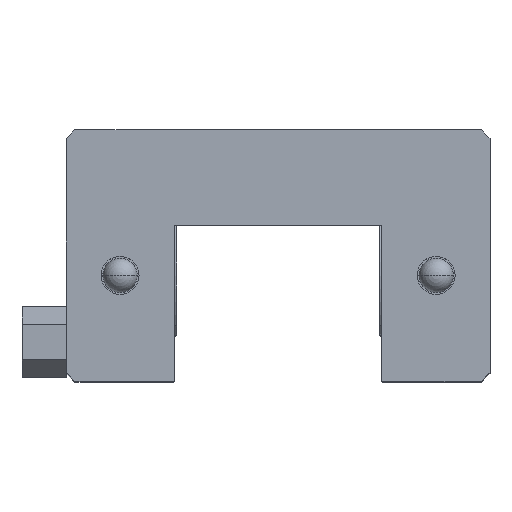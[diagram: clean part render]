
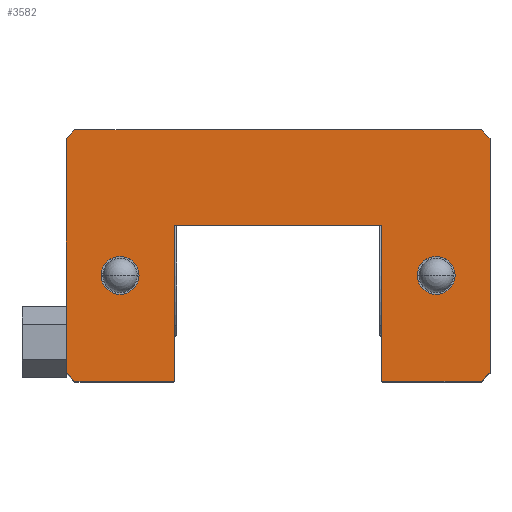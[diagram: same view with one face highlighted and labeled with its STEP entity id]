
A CAD part, top view. The second image highlights one B-rep face of the part: STEP entity #3582.
In plain terms, the highlighted planar face has unit normal (0, 0, 1).
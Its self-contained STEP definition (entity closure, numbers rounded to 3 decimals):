
#1870 = VERTEX_POINT( '', #4796 );
#1914 = EDGE_CURVE( '', #3822, #3254, #4844, .T. );
#1996 = EDGE_CURVE( '', #2322, #3720, #4934, .T. );
#2012 = EDGE_CURVE( '', #2252, #4044, #4950, .T. );
#2076 = EDGE_CURVE( '', #2658, #2146, #5026, .T. );
#2146 = VERTEX_POINT( '', #5107 );
#2214 = VERTEX_POINT( '', #5188 );
#2252 = VERTEX_POINT( '', #5230 );
#2322 = VERTEX_POINT( '', #5310 );
#2334 = EDGE_CURVE( '', #3576, #3602, #5322, .T. );
#2404 = VERTEX_POINT( '', #5397 );
#2416 = EDGE_CURVE( '', #3602, #2322, #5409, .T. );
#2570 = EDGE_CURVE( '', #2146, #3868, #5591, .T. );
#2658 = VERTEX_POINT( '', #5688 );
#2950 = EDGE_CURVE( '', #3720, #3822, #6016, .T. );
#3010 = EDGE_CURVE( '', #2404, #3576, #6081, .T. );
#3062 = VERTEX_POINT( '', #6137 );
#3254 = VERTEX_POINT( '', #6353 );
#3270 = VERTEX_POINT( '', #6371 );
#3422 = EDGE_CURVE( '', #2214, #3062, #6537, .T. );
#3576 = VERTEX_POINT( '', #6701 );
#3582 = ADVANCED_FACE( '', ( #6707, #6708, #6709 ), #6710, .T. );
#3602 = VERTEX_POINT( '', #6733 );
#3636 = EDGE_CURVE( '', #3062, #2214, #6771, .T. );
#3642 = EDGE_CURVE( '', #3270, #4250, #6777, .T. );
#3684 = EDGE_CURVE( '', #4044, #2252, #6824, .T. );
#3686 = EDGE_CURVE( '', #3902, #2404, #6826, .T. );
#3698 = EDGE_CURVE( '', #3868, #3902, #6840, .T. );
#3720 = VERTEX_POINT( '', #6863 );
#3822 = VERTEX_POINT( '', #6984 );
#3868 = VERTEX_POINT( '', #7037 );
#3902 = VERTEX_POINT( '', #7074 );
#4044 = VERTEX_POINT( '', #7229 );
#4138 = EDGE_CURVE( '', #3254, #3270, #7336, .T. );
#4216 = EDGE_CURVE( '', #4250, #1870, #7421, .T. );
#4242 = EDGE_CURVE( '', #1870, #2658, #7448, .T. );
#4250 = VERTEX_POINT( '', #7457 );
#4796 = CARTESIAN_POINT( '', ( 24., 35., 0. ) );
#4844 = LINE( '', #8230, #8231 );
#4934 = LINE( '', #8349, #8350 );
#4950 = CIRCLE( '', #8375, 2.15 );
#5026 = LINE( '', #8476, #8477 );
#5107 = CARTESIAN_POINT( '', ( -23., 36., 0. ) );
#5188 = CARTESIAN_POINT( '', ( 17.9, 21.65, 0. ) );
#5230 = CARTESIAN_POINT( '', ( -17.9, 17.35, 0. ) );
#5310 = CARTESIAN_POINT( '', ( -11.75, 25.2, 0. ) );
#5322 = LINE( '', #8881, #8882 );
#5397 = CARTESIAN_POINT( '', ( -23., 7.5, 0. ) );
#5409 = LINE( '', #9009, #9010 );
#5591 = LINE( '', #9246, #9247 );
#5688 = CARTESIAN_POINT( '', ( 23., 36., 0. ) );
#6016 = LINE( '', #9815, #9816 );
#6081 = LINE( '', #9915, #9916 );
#6137 = CARTESIAN_POINT( '', ( 17.9, 17.35, 0. ) );
#6353 = CARTESIAN_POINT( '', ( 11.85, 7.5, 0. ) );
#6371 = CARTESIAN_POINT( '', ( 23., 7.5, 0. ) );
#6537 = CIRCLE( '', #10555, 2.15 );
#6701 = CARTESIAN_POINT( '', ( -11.85, 7.5, 0. ) );
#6707 = FACE_BOUND( '', #10788, .T. );
#6708 = FACE_BOUND( '', #10789, .T. );
#6709 = FACE_OUTER_BOUND( '', #10790, .T. );
#6710 = PLANE( '', #10791 );
#6733 = CARTESIAN_POINT( '', ( -11.75, 7.6, 0. ) );
#6771 = CIRCLE( '', #10867, 2.15 );
#6777 = LINE( '', #10878, #10879 );
#6824 = CIRCLE( '', #10940, 2.15 );
#6826 = LINE( '', #10943, #10944 );
#6840 = LINE( '', #10963, #10964 );
#6863 = CARTESIAN_POINT( '', ( 11.75, 25.2, 0. ) );
#6984 = CARTESIAN_POINT( '', ( 11.75, 7.6, 0. ) );
#7037 = CARTESIAN_POINT( '', ( -24., 35., 0. ) );
#7074 = CARTESIAN_POINT( '', ( -24., 8.5, 0. ) );
#7229 = CARTESIAN_POINT( '', ( -17.9, 21.65, 0. ) );
#7336 = LINE( '', #11623, #11624 );
#7421 = LINE( '', #11741, #11742 );
#7448 = LINE( '', #11786, #11787 );
#7457 = CARTESIAN_POINT( '', ( 24., 8.5, 0. ) );
#8230 = CARTESIAN_POINT( '', ( 11.75, 7.6, 0. ) );
#8231 = VECTOR( '', #12487, 1. );
#8349 = CARTESIAN_POINT( '', ( -11.75, 25.2, 0. ) );
#8350 = VECTOR( '', #12571, 1. );
#8375 = AXIS2_PLACEMENT_3D( '', #12576, #12577, #12578 );
#8476 = CARTESIAN_POINT( '', ( 23., 36., 0. ) );
#8477 = VECTOR( '', #12702, 1. );
#8881 = CARTESIAN_POINT( '', ( -11.85, 7.5, 0. ) );
#8882 = VECTOR( '', #13059, 1. );
#9009 = CARTESIAN_POINT( '', ( -11.75, 7.6, 0. ) );
#9010 = VECTOR( '', #13140, 1. );
#9246 = CARTESIAN_POINT( '', ( -23., 36., 0. ) );
#9247 = VECTOR( '', #13400, 1. );
#9815 = CARTESIAN_POINT( '', ( 11.75, 25.2, 0. ) );
#9816 = VECTOR( '', #13858, 1. );
#9915 = CARTESIAN_POINT( '', ( -23., 7.5, 0. ) );
#9916 = VECTOR( '', #13915, 1. );
#10555 = AXIS2_PLACEMENT_3D( '', #14417, #14418, #14419 );
#10788 = EDGE_LOOP( '', ( #14566, #14567 ) );
#10789 = EDGE_LOOP( '', ( #14568, #14569 ) );
#10790 = EDGE_LOOP( '', ( #14570, #14571, #14572, #14573, #14574, #14575, #14576, #14577, #14578, #14579, #14580, #14581, #14582, #14583 ) );
#10791 = AXIS2_PLACEMENT_3D( '', #14584, #14585, #14586 );
#10867 = AXIS2_PLACEMENT_3D( '', #14659, #14660, #14661 );
#10878 = CARTESIAN_POINT( '', ( 23., 7.5, 0. ) );
#10879 = VECTOR( '', #14664, 1. );
#10940 = AXIS2_PLACEMENT_3D( '', #14719, #14720, #14721 );
#10943 = CARTESIAN_POINT( '', ( -24., 8.5, 0. ) );
#10944 = VECTOR( '', #14722, 1. );
#10963 = CARTESIAN_POINT( '', ( -24., 35., 0. ) );
#10964 = VECTOR( '', #14743, 1. );
#11623 = CARTESIAN_POINT( '', ( 11.85, 7.5, 0. ) );
#11624 = VECTOR( '', #15320, 1. );
#11741 = CARTESIAN_POINT( '', ( 24., 8.5, 0. ) );
#11742 = VECTOR( '', #15410, 1. );
#11786 = CARTESIAN_POINT( '', ( 24., 35., 0. ) );
#11787 = VECTOR( '', #15432, 1. );
#12487 = DIRECTION( '', ( 0.707, -0.707, 0. ) );
#12571 = DIRECTION( '', ( 1., 0., 0. ) );
#12576 = CARTESIAN_POINT( '', ( -17.9, 19.5, 0. ) );
#12577 = DIRECTION( '', ( 0., 0., -1. ) );
#12578 = DIRECTION( '', ( 0., -1., 0. ) );
#12702 = DIRECTION( '', ( -1., 0., 0. ) );
#13059 = DIRECTION( '', ( 0.707, 0.707, 0. ) );
#13140 = DIRECTION( '', ( 0., 1., 0. ) );
#13400 = DIRECTION( '', ( -0.707, -0.707, 0. ) );
#13858 = DIRECTION( '', ( 0., -1., 0. ) );
#13915 = DIRECTION( '', ( 1., 0., 0. ) );
#14417 = CARTESIAN_POINT( '', ( 17.9, 19.5, 0. ) );
#14418 = DIRECTION( '', ( 0., 0., -1. ) );
#14419 = DIRECTION( '', ( 0., -1., 0. ) );
#14566 = ORIENTED_EDGE( '', *, *, #3422, .T. );
#14567 = ORIENTED_EDGE( '', *, *, #3636, .T. );
#14568 = ORIENTED_EDGE( '', *, *, #3684, .T. );
#14569 = ORIENTED_EDGE( '', *, *, #2012, .T. );
#14570 = ORIENTED_EDGE( '', *, *, #3698, .T. );
#14571 = ORIENTED_EDGE( '', *, *, #3686, .T. );
#14572 = ORIENTED_EDGE( '', *, *, #3010, .T. );
#14573 = ORIENTED_EDGE( '', *, *, #2334, .T. );
#14574 = ORIENTED_EDGE( '', *, *, #2416, .T. );
#14575 = ORIENTED_EDGE( '', *, *, #1996, .T. );
#14576 = ORIENTED_EDGE( '', *, *, #2950, .T. );
#14577 = ORIENTED_EDGE( '', *, *, #1914, .T. );
#14578 = ORIENTED_EDGE( '', *, *, #4138, .T. );
#14579 = ORIENTED_EDGE( '', *, *, #3642, .T. );
#14580 = ORIENTED_EDGE( '', *, *, #4216, .T. );
#14581 = ORIENTED_EDGE( '', *, *, #4242, .T. );
#14582 = ORIENTED_EDGE( '', *, *, #2076, .T. );
#14583 = ORIENTED_EDGE( '', *, *, #2570, .T. );
#14584 = CARTESIAN_POINT( '', ( 0., 0., 0. ) );
#14585 = DIRECTION( '', ( 0., 0., 1. ) );
#14586 = DIRECTION( '', ( 1., 0., 0. ) );
#14659 = CARTESIAN_POINT( '', ( 17.9, 19.5, 0. ) );
#14660 = DIRECTION( '', ( 0., 0., -1. ) );
#14661 = DIRECTION( '', ( 0., -1., 0. ) );
#14664 = DIRECTION( '', ( 0.707, 0.707, 0. ) );
#14719 = CARTESIAN_POINT( '', ( -17.9, 19.5, 0. ) );
#14720 = DIRECTION( '', ( 0., 0., -1. ) );
#14721 = DIRECTION( '', ( 0., -1., 0. ) );
#14722 = DIRECTION( '', ( 0.707, -0.707, 0. ) );
#14743 = DIRECTION( '', ( 0., -1., 0. ) );
#15320 = DIRECTION( '', ( 1., 0., 0. ) );
#15410 = DIRECTION( '', ( 0., 1., 0. ) );
#15432 = DIRECTION( '', ( -0.707, 0.707, 0. ) );
